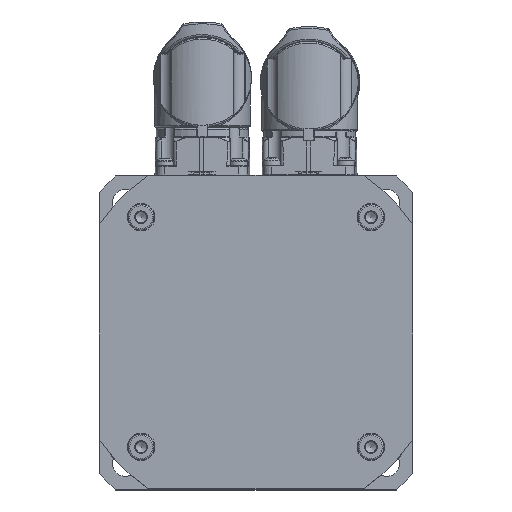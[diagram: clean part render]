
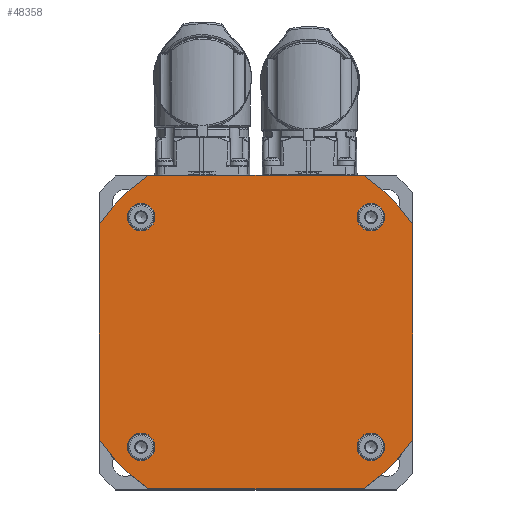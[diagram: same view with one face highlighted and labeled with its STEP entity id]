
A CAD part, top view. The second image highlights one B-rep face of the part: STEP entity #48358.
In plain terms, the highlighted planar face has unit normal (0, 0, 1).
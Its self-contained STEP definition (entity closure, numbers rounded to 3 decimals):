
#7391=LINE('',#70137,#9156);
#7397=LINE('',#70172,#9162);
#7400=LINE('',#70180,#9165);
#7404=LINE('',#70188,#9169);
#9156=VECTOR('',#57224,58.172);
#9162=VECTOR('',#57268,58.172);
#9165=VECTOR('',#57277,58.172);
#9169=VECTOR('',#57287,58.172);
#10887=PLANE('',#51540);
#11491=FACE_BOUND('',#15039,.T.);
#11492=FACE_BOUND('',#15040,.T.);
#11493=FACE_BOUND('',#15041,.T.);
#11494=FACE_BOUND('',#15042,.T.);
#11495=FACE_BOUND('',#15043,.T.);
#15039=EDGE_LOOP('',(#33265));
#15040=EDGE_LOOP('',(#33266));
#15041=EDGE_LOOP('',(#33267));
#15042=EDGE_LOOP('',(#33268));
#15043=EDGE_LOOP('',(#33269,#33270,#33271,#33272,#33273,#33274,#33275,#33276));
#18445=CIRCLE('',#51513,51.5);
#18446=CIRCLE('',#51516,3.75);
#18448=CIRCLE('',#51520,3.75);
#18450=CIRCLE('',#51524,3.75);
#18452=CIRCLE('',#51528,3.75);
#18454=CIRCLE('',#51532,51.5);
#18455=CIRCLE('',#51535,51.5);
#18456=CIRCLE('',#51538,51.5);
#21231=VERTEX_POINT('',#70130);
#21232=VERTEX_POINT('',#70132);
#21233=VERTEX_POINT('',#70136);
#21234=VERTEX_POINT('',#70141);
#21236=VERTEX_POINT('',#70147);
#21238=VERTEX_POINT('',#70153);
#21240=VERTEX_POINT('',#70159);
#21242=VERTEX_POINT('',#70165);
#21243=VERTEX_POINT('',#70167);
#21244=VERTEX_POINT('',#70174);
#21245=VERTEX_POINT('',#70179);
#21246=VERTEX_POINT('',#70183);
#25813=EDGE_CURVE('',#21232,#21231,#18445,.T.);
#25815=EDGE_CURVE('',#21233,#21232,#7391,.T.);
#25818=EDGE_CURVE('',#21234,#21234,#18446,.T.);
#25820=EDGE_CURVE('',#21236,#21236,#18448,.T.);
#25822=EDGE_CURVE('',#21238,#21238,#18450,.T.);
#25824=EDGE_CURVE('',#21240,#21240,#18452,.T.);
#25827=EDGE_CURVE('',#21243,#21242,#18454,.T.);
#25830=EDGE_CURVE('',#21231,#21243,#7397,.T.);
#25831=EDGE_CURVE('',#21244,#21233,#18455,.T.);
#25834=EDGE_CURVE('',#21245,#21244,#7400,.T.);
#25836=EDGE_CURVE('',#21246,#21245,#18456,.T.);
#25839=EDGE_CURVE('',#21242,#21246,#7404,.T.);
#33265=ORIENTED_EDGE('',*,*,#25818,.T.);
#33266=ORIENTED_EDGE('',*,*,#25820,.T.);
#33267=ORIENTED_EDGE('',*,*,#25822,.T.);
#33268=ORIENTED_EDGE('',*,*,#25824,.T.);
#33269=ORIENTED_EDGE('',*,*,#25839,.T.);
#33270=ORIENTED_EDGE('',*,*,#25836,.T.);
#33271=ORIENTED_EDGE('',*,*,#25834,.T.);
#33272=ORIENTED_EDGE('',*,*,#25831,.T.);
#33273=ORIENTED_EDGE('',*,*,#25815,.T.);
#33274=ORIENTED_EDGE('',*,*,#25813,.T.);
#33275=ORIENTED_EDGE('',*,*,#25830,.T.);
#33276=ORIENTED_EDGE('',*,*,#25827,.T.);
#48358=ADVANCED_FACE('',(#11491,#11492,#11493,#11494,#11495),#10887,.T.);
#51513=AXIS2_PLACEMENT_3D('',#70133,#57219,#57220);
#51516=AXIS2_PLACEMENT_3D('',#70142,#57229,#57230);
#51520=AXIS2_PLACEMENT_3D('',#70148,#57237,#57238);
#51524=AXIS2_PLACEMENT_3D('',#70154,#57245,#57246);
#51528=AXIS2_PLACEMENT_3D('',#70160,#57253,#57254);
#51532=AXIS2_PLACEMENT_3D('',#70168,#57262,#57263);
#51535=AXIS2_PLACEMENT_3D('',#70175,#57271,#57272);
#51538=AXIS2_PLACEMENT_3D('',#70184,#57281,#57282);
#51540=AXIS2_PLACEMENT_3D('',#70189,#57288,#57289);
#57219=DIRECTION('center_axis',(0.,0.,1.));
#57220=DIRECTION('ref_axis',(0.565,-0.825,0.));
#57224=DIRECTION('',(1.,0.,0.));
#57229=DIRECTION('center_axis',(0.,0.,-1.));
#57230=DIRECTION('ref_axis',(0.,-1.,0.));
#57237=DIRECTION('center_axis',(0.,0.,-1.));
#57238=DIRECTION('ref_axis',(-1.,0.,0.));
#57245=DIRECTION('center_axis',(0.,0.,-1.));
#57246=DIRECTION('ref_axis',(0.,1.,0.));
#57253=DIRECTION('center_axis',(0.,0.,-1.));
#57254=DIRECTION('ref_axis',(1.,0.,0.));
#57262=DIRECTION('center_axis',(0.,0.,1.));
#57263=DIRECTION('ref_axis',(0.825,0.565,0.));
#57268=DIRECTION('',(0.,1.,0.));
#57271=DIRECTION('center_axis',(0.,0.,1.));
#57272=DIRECTION('ref_axis',(-0.825,-0.565,0.));
#57277=DIRECTION('',(0.,-1.,0.));
#57281=DIRECTION('center_axis',(0.,0.,1.));
#57282=DIRECTION('ref_axis',(-0.565,0.825,0.));
#57287=DIRECTION('',(-1.,0.,0.));
#57288=DIRECTION('center_axis',(0.,0.,1.));
#57289=DIRECTION('ref_axis',(1.,0.,0.));
#70130=CARTESIAN_POINT('',(42.5,-29.086,160.));
#70132=CARTESIAN_POINT('',(29.086,-42.5,160.));
#70133=CARTESIAN_POINT('Origin',(0.,0.,160.));
#70136=CARTESIAN_POINT('',(-29.086,-42.5,160.));
#70137=CARTESIAN_POINT('',(-42.5,-42.5,160.));
#70141=CARTESIAN_POINT('',(31.113,-34.863,160.));
#70142=CARTESIAN_POINT('Origin',(31.113,-31.113,160.));
#70147=CARTESIAN_POINT('',(-34.863,-31.113,160.));
#70148=CARTESIAN_POINT('Origin',(-31.113,-31.113,160.));
#70153=CARTESIAN_POINT('',(-31.113,34.863,160.));
#70154=CARTESIAN_POINT('Origin',(-31.113,31.113,160.));
#70159=CARTESIAN_POINT('',(34.863,31.113,160.));
#70160=CARTESIAN_POINT('Origin',(31.113,31.113,160.));
#70165=CARTESIAN_POINT('',(29.086,42.5,160.));
#70167=CARTESIAN_POINT('',(42.5,29.086,160.));
#70168=CARTESIAN_POINT('Origin',(0.,0.,160.));
#70172=CARTESIAN_POINT('',(42.5,-42.5,160.));
#70174=CARTESIAN_POINT('',(-42.5,-29.086,160.));
#70175=CARTESIAN_POINT('Origin',(0.,0.,160.));
#70179=CARTESIAN_POINT('',(-42.5,29.086,160.));
#70180=CARTESIAN_POINT('',(-42.5,42.5,160.));
#70183=CARTESIAN_POINT('',(-29.086,42.5,160.));
#70184=CARTESIAN_POINT('Origin',(0.,0.,160.));
#70188=CARTESIAN_POINT('',(42.5,42.5,160.));
#70189=CARTESIAN_POINT('Origin',(0.,0.,
160.));
